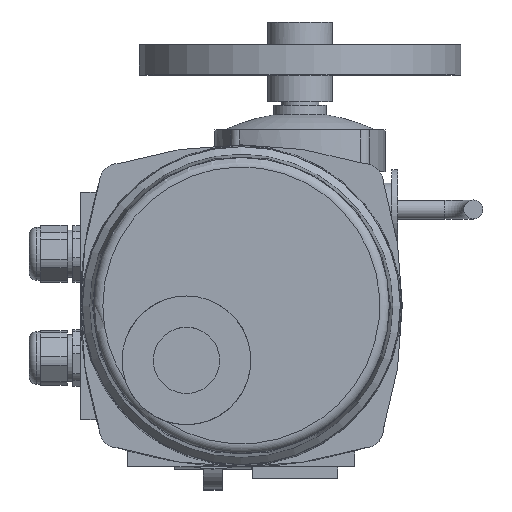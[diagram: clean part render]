
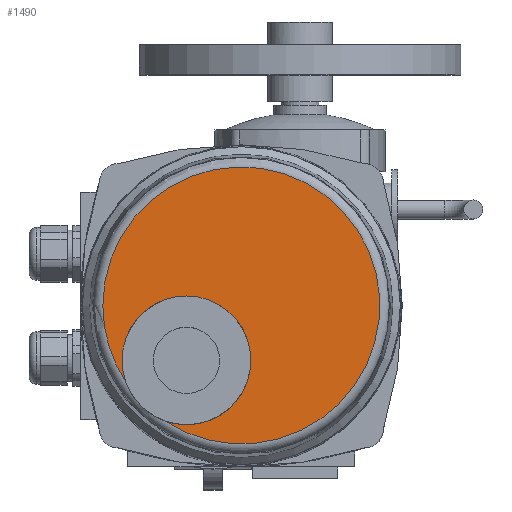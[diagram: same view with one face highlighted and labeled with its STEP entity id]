
A CAD part, top view. The second image highlights one B-rep face of the part: STEP entity #1490.
In plain terms, the highlighted planar face has unit normal (0, 0, 1).
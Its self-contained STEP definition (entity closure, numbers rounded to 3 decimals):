
#1490=ADVANCED_FACE('',(#8444),#8446,.T.);
#8444=FACE_BOUND('',#8445,.T.);
#8445=EDGE_LOOP('',(#13768,#13769,#13770,#13771));
#8446=PLANE('',#8447);
#8447=AXIS2_PLACEMENT_3D('',#8448,#8449,#8450);
#8448=CARTESIAN_POINT('',(15.,35.,413.));
#8449=DIRECTION('',(0.,0.,1.));
#8450=DIRECTION('',(-1.,0.,0.));
#13768=ORIENTED_EDGE('',*,*,#17695,.F.);
#13769=ORIENTED_EDGE('',*,*,#17696,.F.);
#13770=ORIENTED_EDGE('',*,*,#17682,.F.);
#13771=ORIENTED_EDGE('',*,*,#17681,.F.);
#17681=EDGE_CURVE('',#20103,#20106,#20107,.T.);
#17682=EDGE_CURVE('',#20106,#20104,#20108,.T.);
#17695=EDGE_CURVE('',#20129,#20103,#20130,.T.);
#17696=EDGE_CURVE('',#20104,#20129,#20131,.T.);
#20103=VERTEX_POINT('',#24913);
#20104=VERTEX_POINT('',#24914);
#20106=VERTEX_POINT('',#24943);
#20107=CIRCLE('',#24944,73.139);
#20108=CIRCLE('',#24948,73.139);
#20129=VERTEX_POINT('',#25001);
#20130=CIRCLE('',#25002,34.);
#20131=CIRCLE('',#25006,34.);
#24913=CARTESIAN_POINT('',(-46.08,-5.231,413.));
#24914=CARTESIAN_POINT('',(-25.231,-26.08,413.));
#24943=CARTESIAN_POINT('',(-58.139,35.,413.));
#24944=AXIS2_PLACEMENT_3D('',#24945,#24946,#24947);
#24945=CARTESIAN_POINT('',(15.,35.,413.));
#24946=DIRECTION('',(0.,0.,-1.));
#24947=DIRECTION('',(-0.835,-0.55,0.));
#24948=AXIS2_PLACEMENT_3D('',#24949,#24950,#24951);
#24949=CARTESIAN_POINT('',(15.,35.,413.));
#24950=DIRECTION('',(0.,0.,-1.));
#24951=DIRECTION('',(-1.,0.,0.));
#25001=CARTESIAN_POINT('',(-13.991,40.009,413.));
#25002=AXIS2_PLACEMENT_3D('',#25003,#25004,#25005);
#25003=CARTESIAN_POINT('',(-13.991,6.009,413.));
#25004=DIRECTION('',(0.,0.,1.));
#25005=DIRECTION('',(0.,1.,0.));
#25006=AXIS2_PLACEMENT_3D('',#25007,#25008,#25009);
#25007=CARTESIAN_POINT('',(-13.991,6.009,413.));
#25008=DIRECTION('',(0.,0.,1.));
#25009=DIRECTION('',(-0.331,-0.944,0.));
